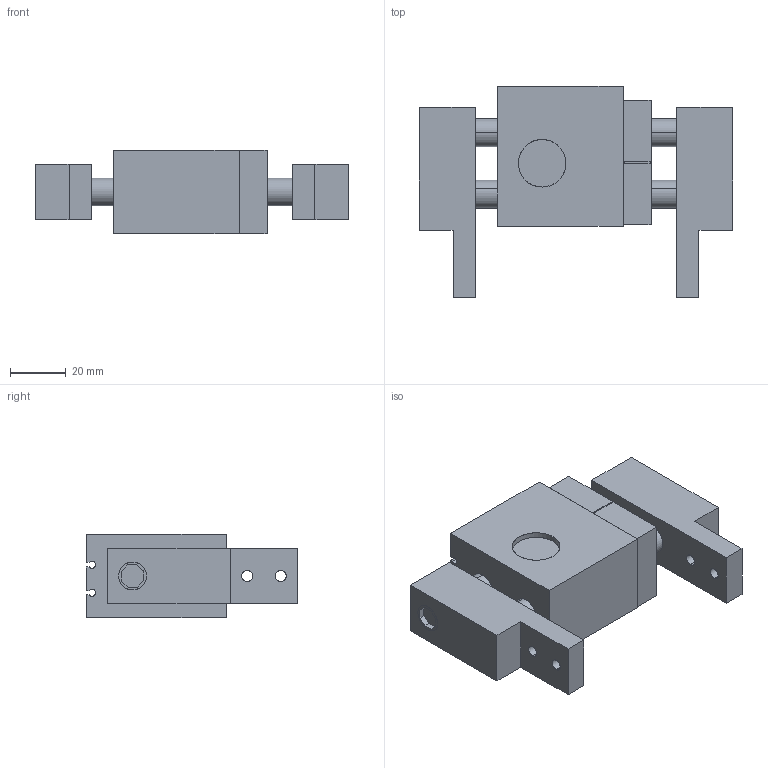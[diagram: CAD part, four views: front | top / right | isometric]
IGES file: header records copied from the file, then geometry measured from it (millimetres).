
Start section: SolidWorks IGES file using analytic representation for surfaces
Global section: file name: H:\GDL.20\GDL.20-OPEN.IGS; native system: SolidWorks 2010; preprocessor: SolidWorks 2010; author: SGA; date: 111107.105421; units: millimetre
Bounding box: 112 x 75.5 x 30 mm (x, y, z)
Surface area: 39342.1 mm2 (no closed solid volume)
Topology: 0 solids, 0 shells, 180 faces, 3108 edges, 3092 vertices
Faces by surface type: revolution 102, bspline 78
